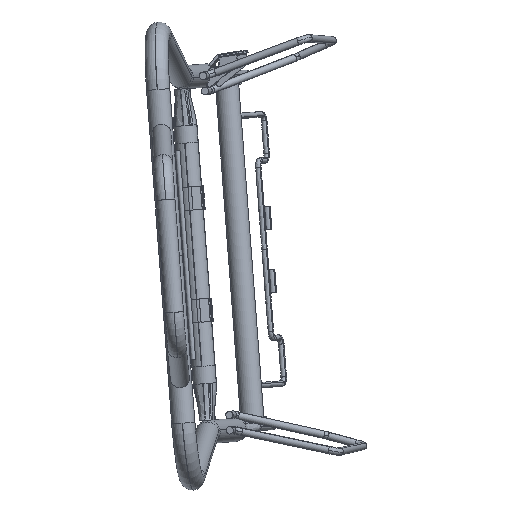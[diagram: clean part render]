
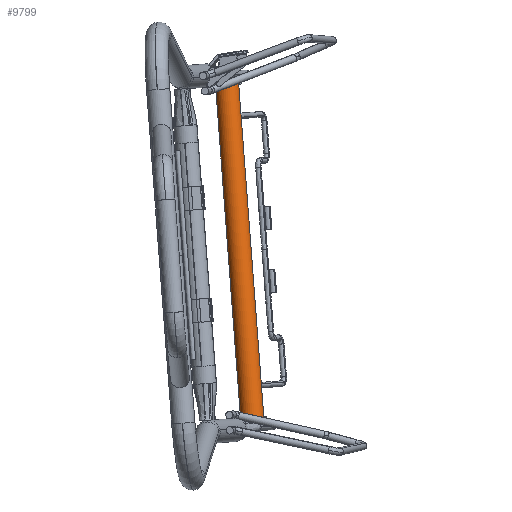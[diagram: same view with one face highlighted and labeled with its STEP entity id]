
A CAD part, top view. The second image highlights one B-rep face of the part: STEP entity #9799.
In plain terms, the highlighted cylindrical face has radius 12.5 mm (diameter 25 mm), a partial arc.
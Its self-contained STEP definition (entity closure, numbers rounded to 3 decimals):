
#9769=AXIS2_PLACEMENT_3D('Cylinder Axis2P3D',#9766,#9767,#9768) ;
#9773=AXIS2_PLACEMENT_3D('Circle Axis2P3D',#9771,#9772,$) ;
#9719=CARTESIAN_POINT('Line Origine',(677.503,-587.853,565.91)) ;
#9723=CARTESIAN_POINT('Vertex',(677.688,-901.098,565.898)) ;
#9725=CARTESIAN_POINT('Vertex',(677.468,-529.608,565.912)) ;
#9744=CARTESIAN_POINT('Vertex',(702.467,-529.593,565.629)) ;
#9747=CARTESIAN_POINT('Line Origine',(702.501,-587.838,565.626)) ;
#9751=CARTESIAN_POINT('Vertex',(702.686,-901.083,565.614)) ;
#9766=CARTESIAN_POINT('Axis2P3D Location',(690.002,-587.846,565.768)) ;
#9771=CARTESIAN_POINT('Axis2P3D Location',(689.967,-529.601,565.77)) ;
#9777=CARTESIAN_POINT('Control Point',(702.686,-901.083,565.614)) ;
#9778=CARTESIAN_POINT('Control Point',(702.708,-901.083,567.578)) ;
#9779=CARTESIAN_POINT('Control Point',(702.345,-901.084,569.545)) ;
#9780=CARTESIAN_POINT('Control Point',(701.595,-901.084,571.416)) ;
#9781=CARTESIAN_POINT('Control Point',(699.401,-901.085,574.764)) ;
#9782=CARTESIAN_POINT('Control Point',(696.105,-901.088,577.033)) ;
#9783=CARTESIAN_POINT('Control Point',(694.251,-901.089,577.825)) ;
#9784=CARTESIAN_POINT('Control Point',(690.333,-901.091,578.641)) ;
#9785=CARTESIAN_POINT('Control Point',(686.398,-901.093,577.914)) ;
#9786=CARTESIAN_POINT('Control Point',(684.527,-901.094,577.164)) ;
#9787=CARTESIAN_POINT('Control Point',(681.179,-901.096,574.97)) ;
#9788=CARTESIAN_POINT('Control Point',(678.91,-901.097,571.674)) ;
#9789=CARTESIAN_POINT('Control Point',(678.118,-901.098,569.82)) ;
#9790=CARTESIAN_POINT('Control Point',(677.71,-901.098,567.861)) ;
#9791=CARTESIAN_POINT('Control Point',(677.688,-901.098,565.898)) ;
#9720=DIRECTION('Vector Direction',(0.001,-1.,0.)) ;
#9748=DIRECTION('Vector Direction',(0.001,-1.,0.)) ;
#9767=DIRECTION('Axis2P3D Direction',(0.001,-1.,0.)) ;
#9768=DIRECTION('Axis2P3D XDirection',(1.,0.001,-0.011)) ;
#9772=DIRECTION('Axis2P3D Direction',(0.001,-1.,0.)) ;
#9721=VECTOR('Line Direction',#9720,1.) ;
#9749=VECTOR('Line Direction',#9748,1.) ;
#9794=ORIENTED_EDGE('',*,*,#9753,.T.) ;
#9795=ORIENTED_EDGE('',*,*,#9775,.T.) ;
#9796=ORIENTED_EDGE('',*,*,#9727,.F.) ;
#9797=ORIENTED_EDGE('',*,*,#9792,.F.) ;
#9799=ADVANCED_FACE('SHT0012990_AllCATPart.1\\\X2\976080CC4E0B652F64917BA1\X0\\\\X2\96F64EF651E04F554F53\X0\',(#9798),#9770,.T.) ;
#9776=B_SPLINE_CURVE_WITH_KNOTS('',5,(#9777,#9778,#9779,#9780,#9781,#9782,#9783,#9784,#9785,#9786,#9787,#9788,#9789,#9790,#9791),.UNSPECIFIED.,.F.,.U.,(6,3,3,3,6),(-19.635,-9.817,0.,9.817,19.635),.UNSPECIFIED.) ;
#9774=CIRCLE('generated circle',#9773,12.5) ;
#9770=CYLINDRICAL_SURFACE('generated cylinder',#9769,12.5) ;
#9727=EDGE_CURVE('',#9724,#9726,#9722,.F.) ;
#9753=EDGE_CURVE('',#9752,#9745,#9750,.F.) ;
#9775=EDGE_CURVE('',#9745,#9726,#9774,.T.) ;
#9792=EDGE_CURVE('',#9752,#9724,#9776,.T.) ;
#9793=EDGE_LOOP('',(#9794,#9795,#9796,#9797)) ;
#9798=FACE_OUTER_BOUND('',#9793,.T.) ;
#9722=LINE('Line',#9719,#9721) ;
#9750=LINE('Line',#9747,#9749) ;
#9724=VERTEX_POINT('',#9723) ;
#9726=VERTEX_POINT('',#9725) ;
#9745=VERTEX_POINT('',#9744) ;
#9752=VERTEX_POINT('',#9751) ;
